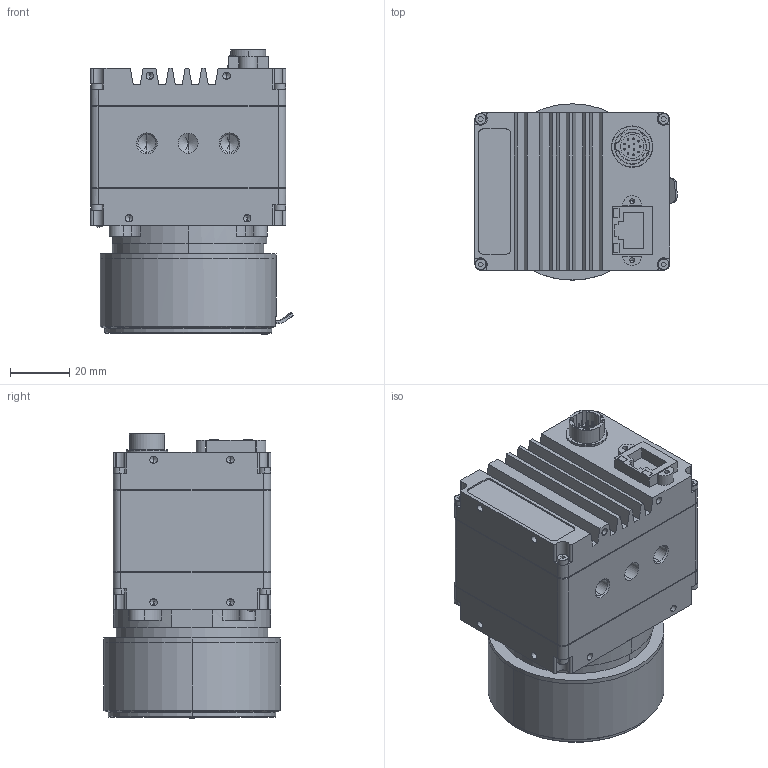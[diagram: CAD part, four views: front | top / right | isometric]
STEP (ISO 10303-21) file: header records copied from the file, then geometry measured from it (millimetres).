
FILE_DESCRIPTION (( 'STEP AP214' ), '1' );
FILE_NAME ('GTLF PYTHON F-MOUNT.STEP', '2018-01-08T23:13:57', ( '' ), ( '' ), 'SwSTEP 2.0', 'SolidWorks 2017', '' );
FILE_SCHEMA (( 'AUTOMOTIVE_DESIGN' ));
Length unit declared in the file: millimetre
Products named in the file (4): LEGACY LENS MOUNT BASE - defeatured; GTLF PYTHON F-MOUNT; LEGACY FMOUNT ASSY - defeatured; GTLF BODY ASSY - defeatured_GT PYTHON
Assembly tree (3 placements, depth 2):
  GTLF PYTHON F-MOUNT
    GTLF BODY ASSY - defeatured_GT PYTHON
    LEGACY LENS MOUNT BASE - defeatured
    LEGACY FMOUNT ASSY - defeatured
Bounding box: 68.63 x 59.7 x 96.39 mm (x, y, z)
Volume: 192902.1 mm3; surface area: 52070.3 mm2
Topology: 3 solids, 11 shells, 744 faces, 1878 edges, 1135 vertices
Faces by surface type: cylinder 315, plane 266, cone 120, sphere 26, torus 17
Entity records: 25782 total; most frequent: CARTESIAN_POINT 4001, DIRECTION 3955, ORIENTED_EDGE 3488, EDGE_CURVE 1744, AXIS2_PLACEMENT_3D 1493, VERTEX_POINT 1111, VECTOR 969, LINE 969
